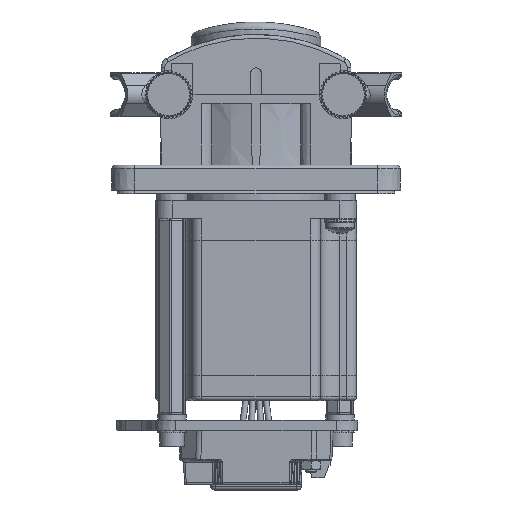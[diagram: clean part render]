
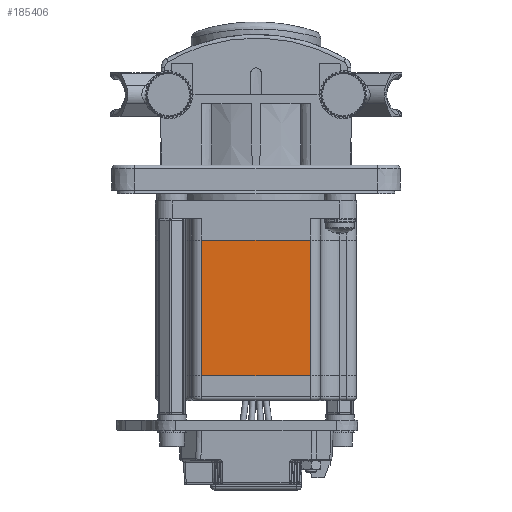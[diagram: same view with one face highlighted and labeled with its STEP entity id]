
A CAD part, front view. The second image highlights one B-rep face of the part: STEP entity #185406.
In plain terms, the highlighted planar face has unit normal (0, -1, 0).
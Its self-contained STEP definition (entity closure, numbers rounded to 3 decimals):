
#704 = PLANE ( 'NONE',  #177627 ) ;
#5919 = CARTESIAN_POINT ( 'NONE',  ( -28.2, -28.2, -66. ) ) ;
#12155 = DIRECTION ( 'NONE',  ( 0., 0., -1. ) ) ;
#12300 = ORIENTED_EDGE ( 'NONE', *, *, #185576, .T. ) ;
#22720 = EDGE_CURVE ( 'NONE', #156129, #45775, #154472, .T. ) ;
#27271 = CARTESIAN_POINT ( 'NONE',  ( -15.25, -28.2, 70.559 ) ) ;
#27977 = DIRECTION ( 'NONE',  ( 1., 0., 0. ) ) ;
#32311 = ORIENTED_EDGE ( 'NONE', *, *, #22720, .F. ) ;
#32679 = FACE_OUTER_BOUND ( 'NONE', #36527, .T. ) ;
#36527 = EDGE_LOOP ( 'NONE', ( #172981, #12300, #32311, #89052 ) ) ;
#43715 = VECTOR ( 'NONE', #12155, 1000. ) ;
#45775 = VERTEX_POINT ( 'NONE', #185444 ) ;
#54212 = VERTEX_POINT ( 'NONE', #185875 ) ;
#77771 = CARTESIAN_POINT ( 'NONE',  ( -28.2, -28.2, -21. ) ) ;
#79093 = LINE ( 'NONE', #192742, #167591 ) ;
#85630 = LINE ( 'NONE', #77771, #148666 ) ;
#85678 = EDGE_CURVE ( 'NONE', #89042, #156129, #85630, .T. ) ;
#88792 = DIRECTION ( 'NONE',  ( 0., -1., 0. ) ) ;
#89042 = VERTEX_POINT ( 'NONE', #173095 ) ;
#89052 = ORIENTED_EDGE ( 'NONE', *, *, #85678, .F. ) ;
#92990 = CARTESIAN_POINT ( 'NONE',  ( 15.25, -28.2, 70.559 ) ) ;
#107597 = VECTOR ( 'NONE', #156753, 1000. ) ;
#118908 = EDGE_CURVE ( 'NONE', #89042, #54212, #172684, .T. ) ;
#130054 = DIRECTION ( 'NONE',  ( 1., 0., 0. ) ) ;
#132023 = CARTESIAN_POINT ( 'NONE',  ( 15.25, -28.2, -21. ) ) ;
#136530 = DIRECTION ( 'NONE',  ( 1., 0., 0. ) ) ;
#148666 = VECTOR ( 'NONE', #27977, 1000. ) ;
#154472 = LINE ( 'NONE', #92990, #43715 ) ;
#156129 = VERTEX_POINT ( 'NONE', #132023 ) ;
#156753 = DIRECTION ( 'NONE',  ( 0., 0., -1. ) ) ;
#167591 = VECTOR ( 'NONE', #130054, 1000. ) ;
#172684 = LINE ( 'NONE', #27271, #107597 ) ;
#172981 = ORIENTED_EDGE ( 'NONE', *, *, #118908, .T. ) ;
#173095 = CARTESIAN_POINT ( 'NONE',  ( -15.25, -28.2, -21. ) ) ;
#177627 = AXIS2_PLACEMENT_3D ( 'NONE', #5919, #88792, #136530 ) ;
#185406 = ADVANCED_FACE ( 'NONE', ( #32679 ), #704, .T. ) ;
#185444 = CARTESIAN_POINT ( 'NONE',  ( 15.25, -28.2, -59. ) ) ;
#185576 = EDGE_CURVE ( 'NONE', #54212, #45775, #79093, .T. ) ;
#185875 = CARTESIAN_POINT ( 'NONE',  ( -15.25, -28.2, -59. ) ) ;
#192742 = CARTESIAN_POINT ( 'NONE',  ( -28.2, -28.2, -59. ) ) ;
